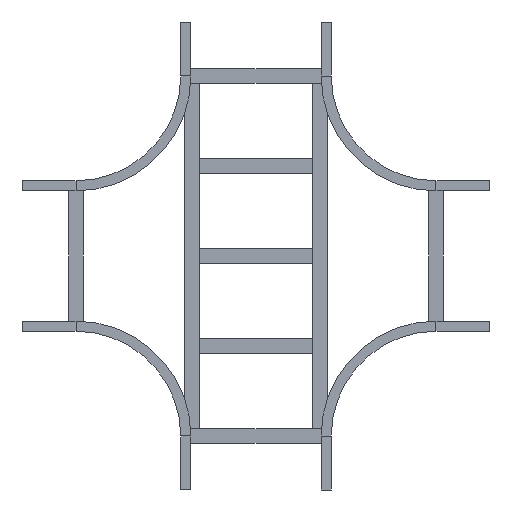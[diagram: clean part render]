
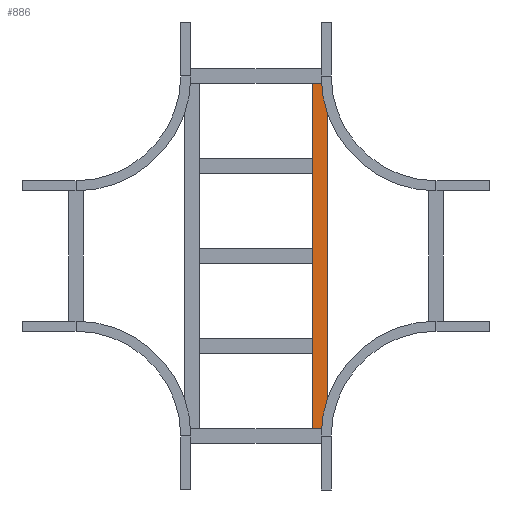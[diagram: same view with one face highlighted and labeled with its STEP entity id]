
A CAD part, front view. The second image highlights one B-rep face of the part: STEP entity #886.
In plain terms, the highlighted planar face has unit normal (0, -1, 0).
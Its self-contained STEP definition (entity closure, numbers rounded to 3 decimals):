
#8 = EDGE_CURVE ( 'NONE', #2170, #2225, #1820, .T. ) ;
#21 = ORIENTED_EDGE ( 'NONE', *, *, #8, .T. ) ;
#96 = PLANE ( 'NONE',  #2105 ) ;
#112 = EDGE_CURVE ( 'NONE', #2225, #2458, #167, .T. ) ;
#128 = ORIENTED_EDGE ( 'NONE', *, *, #112, .T. ) ;
#167 = LINE ( 'NONE', #1871, #1403 ) ;
#215 = DIRECTION ( 'NONE',  ( 0., 1., 0. ) ) ;
#434 = FACE_OUTER_BOUND ( 'NONE', #2193, .T. ) ;
#452 = CARTESIAN_POINT ( 'NONE',  ( -479.75, 0., 20.25 ) ) ;
#715 = CARTESIAN_POINT ( 'NONE',  ( 479.75, 0., 20.25 ) ) ;
#719 = DIRECTION ( 'NONE',  ( -1., 0., 0. ) ) ;
#784 = VERTEX_POINT ( 'NONE', #2324 ) ;
#886 = ADVANCED_FACE ( 'NONE', ( #434 ), #96, .F. ) ;
#900 = CARTESIAN_POINT ( 'NONE',  ( 479.75, 0., 20.25 ) ) ;
#965 = VECTOR ( 'NONE', #719, 1000. ) ;
#986 = VECTOR ( 'NONE', #1992, 1000. ) ;
#1018 = DIRECTION ( 'NONE',  ( 0., 0., -1. ) ) ;
#1031 = EDGE_CURVE ( 'NONE', #2170, #784, #1565, .T. ) ;
#1131 = DIRECTION ( 'NONE',  ( 0., 0., -1. ) ) ;
#1137 = CARTESIAN_POINT ( 'NONE',  ( 479.75, 0., -20.25 ) ) ;
#1257 = VECTOR ( 'NONE', #1131, 1000. ) ;
#1349 = ORIENTED_EDGE ( 'NONE', *, *, #1031, .F. ) ;
#1356 = CARTESIAN_POINT ( 'NONE',  ( 479.75, 0., 20.25 ) ) ;
#1403 = VECTOR ( 'NONE', #1018, 1000. ) ;
#1565 = LINE ( 'NONE', #1356, #1257 ) ;
#1703 = EDGE_CURVE ( 'NONE', #784, #2458, #1788, .T. ) ;
#1724 = DIRECTION ( 'NONE',  ( 0., 0., 1. ) ) ;
#1788 = LINE ( 'NONE', #1137, #986 ) ;
#1820 = LINE ( 'NONE', #2667, #965 ) ;
#1871 = CARTESIAN_POINT ( 'NONE',  ( -479.75, 0., 20.25 ) ) ;
#1992 = DIRECTION ( 'NONE',  ( -1., 0., 0. ) ) ;
#2105 = AXIS2_PLACEMENT_3D ( 'NONE', #900, #215, #1724 ) ;
#2170 = VERTEX_POINT ( 'NONE', #715 ) ;
#2193 = EDGE_LOOP ( 'NONE', ( #128, #2750, #1349, #21 ) ) ;
#2225 = VERTEX_POINT ( 'NONE', #452 ) ;
#2324 = CARTESIAN_POINT ( 'NONE',  ( 479.75, 0., -20.25 ) ) ;
#2458 = VERTEX_POINT ( 'NONE', #2571 ) ;
#2571 = CARTESIAN_POINT ( 'NONE',  ( -479.75, 0., -20.25 ) ) ;
#2667 = CARTESIAN_POINT ( 'NONE',  ( 479.75, 0., 20.25 ) ) ;
#2750 = ORIENTED_EDGE ( 'NONE', *, *, #1703, .F. ) ;
